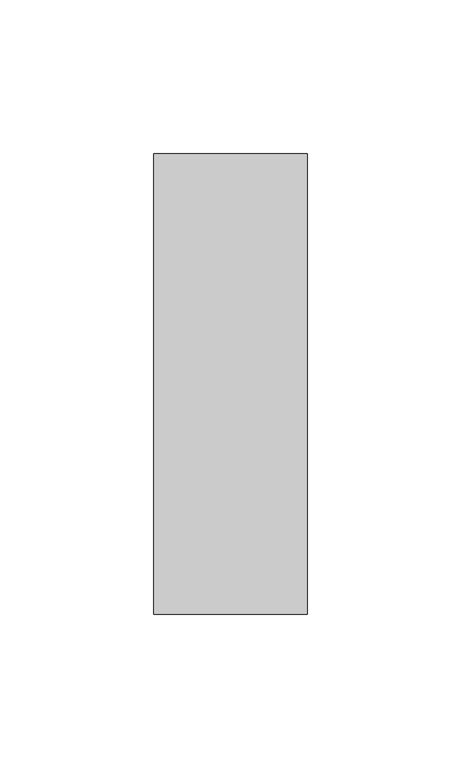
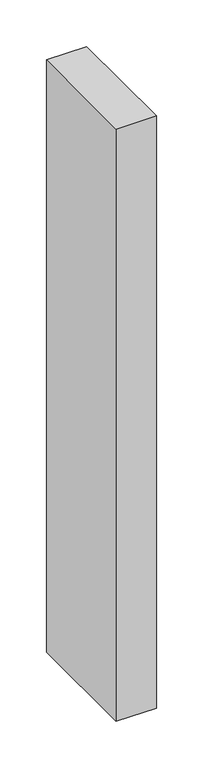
"""IFC4 building model written with IfcOpenShell, lengths in millimetres: member geometry, Прямоугольный импост : 50 x 150 мм."""

from ifc_helpers import new_model, si_unit, frame, origin, place, context, project, spatial, polyline, outline, extrude, source, transform, mapped, element, save


def member_fdcde658(model_context):
    return source(origin(), model_context, "Body", "SweptSolid", [
        extrude(outline(polyline([(25.0, 75.0), (25.0, -75.0), (-25.0, -75.0), (-25.0, 75.0), (25.0, 75.0)])), frame((0.0, 0.0, -776.297085), z_axis=(0.0, 0.0, 1.0), x_axis=(1.0, 0.0, 0.0)), (0.0, 0.0, 1.0), 776.297085),
    ])


if __name__ == "__main__":
    model = new_model("IFC4")
    model_context = context("Model", 3, world=origin())
    ifc_project = project(units=[si_unit("LENGTHUNIT", "METRE", prefix="MILLI")], contexts=[model_context])
    site = spatial("IfcSite", under=ifc_project)
    building = spatial("IfcBuilding", under=site)
    placement = place(None, origin())
    member_shape = member_fdcde658(model_context)
    element("IfcMember", 1, ObjectType="Прямоугольный импост : 50 x 150 мм", at=placement, inside=building, context=model_context, shape_type="MappedRepresentation", body=[
        mapped(member_shape, transform((0.0, 0.0, 0.0), x_axis=(1.0, 0.0, 0.0), y_axis=(0.0, 1.0, 0.0), z_axis=(0.0, 0.0, 1.0))),
    ])
    save(model, "model.ifc")
